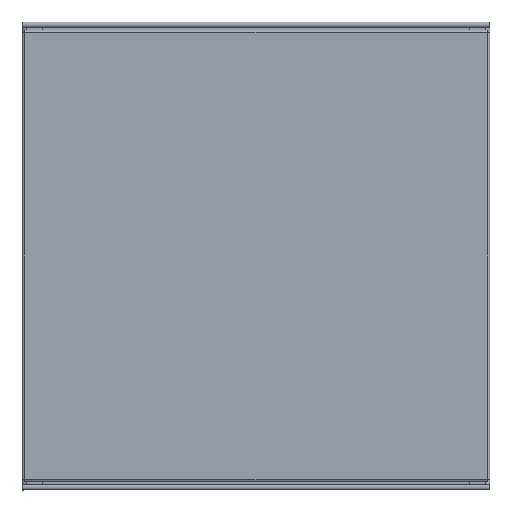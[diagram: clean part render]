
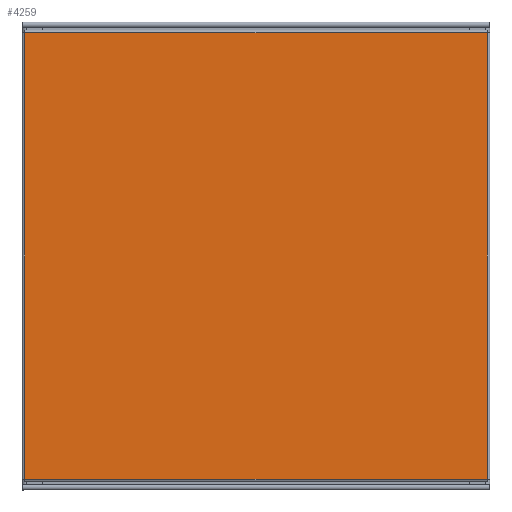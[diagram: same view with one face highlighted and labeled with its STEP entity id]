
A CAD part, front view. The second image highlights one B-rep face of the part: STEP entity #4259.
In plain terms, the highlighted planar face has unit normal (0, -1, 0).
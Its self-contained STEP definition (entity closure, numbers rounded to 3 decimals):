
#4259=ADVANCED_FACE('',(#8144),#60091,.T.);
#8144=FACE_OUTER_BOUND('',#12338,.T.);
#12338=EDGE_LOOP('',(#30325,#30326,#30327,#30328));
#30325=ORIENTED_EDGE('',*,*,#39842,.T.);
#30326=ORIENTED_EDGE('',*,*,#39839,.T.);
#30327=ORIENTED_EDGE('',*,*,#39840,.T.);
#30328=ORIENTED_EDGE('',*,*,#39841,.T.);
#39839=EDGE_CURVE('',#58454,#58455,#45338,.T.);
#39840=EDGE_CURVE('',#58455,#58456,#45339,.T.);
#39841=EDGE_CURVE('',#58456,#58457,#45340,.T.);
#39842=EDGE_CURVE('',#58457,#58454,#45341,.T.);
#45338=B_SPLINE_CURVE_WITH_KNOTS('',1,(#183290,#183291),.UNSPECIFIED.,.F.,
 .F.,(2,2),(0.,333.6),.UNSPECIFIED.);
#45339=B_SPLINE_CURVE_WITH_KNOTS('',1,(#183292,#183293),.UNSPECIFIED.,.F.,
 .F.,(2,2),(0.,345.6),.UNSPECIFIED.);
#45340=B_SPLINE_CURVE_WITH_KNOTS('',1,(#183294,#183295),.UNSPECIFIED.,.F.,
 .F.,(2,2),(0.,333.6),.UNSPECIFIED.);
#45341=B_SPLINE_CURVE_WITH_KNOTS('',1,(#183296,#183297),.UNSPECIFIED.,.F.,
 .F.,(2,2),(0.,345.6),.UNSPECIFIED.);
#58454=VERTEX_POINT('',#183194);
#58455=VERTEX_POINT('',#183195);
#58456=VERTEX_POINT('',#183196);
#58457=VERTEX_POINT('',#183197);
#60091=PLANE('',#69377);
#69377=AXIS2_PLACEMENT_3D('',#183157,#79794,$);
#79794=DIRECTION('',(0.,-1.,0.));
#183157=CARTESIAN_POINT('',(207.36,-99.,89.66));
#183194=CARTESIAN_POINT('',(-172.8,-99.,56.3));
#183195=CARTESIAN_POINT('',(-172.8,-99.,-277.3));
#183196=CARTESIAN_POINT('',(172.8,-99.,-277.3));
#183197=CARTESIAN_POINT('',(172.8,-99.,56.3));
#183290=CARTESIAN_POINT('',(-172.8,-99.,56.3));
#183291=CARTESIAN_POINT('',(-172.8,-99.,-277.3));
#183292=CARTESIAN_POINT('',(-172.8,-99.,-277.3));
#183293=CARTESIAN_POINT('',(172.8,-99.,-277.3));
#183294=CARTESIAN_POINT('',(172.8,-99.,-277.3));
#183295=CARTESIAN_POINT('',(172.8,-99.,56.3));
#183296=CARTESIAN_POINT('',(172.8,-99.,56.3));
#183297=CARTESIAN_POINT('',(-172.8,-99.,56.3));
